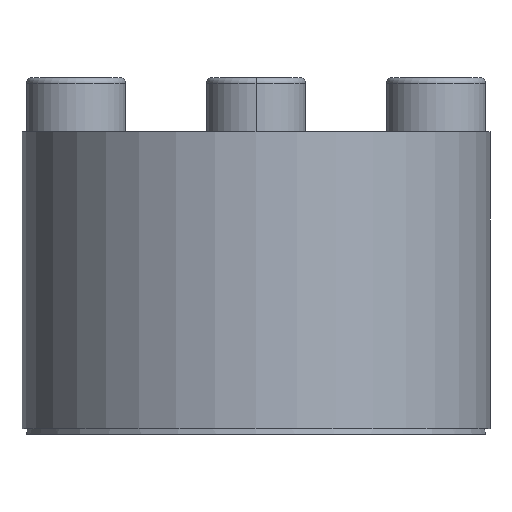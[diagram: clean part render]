
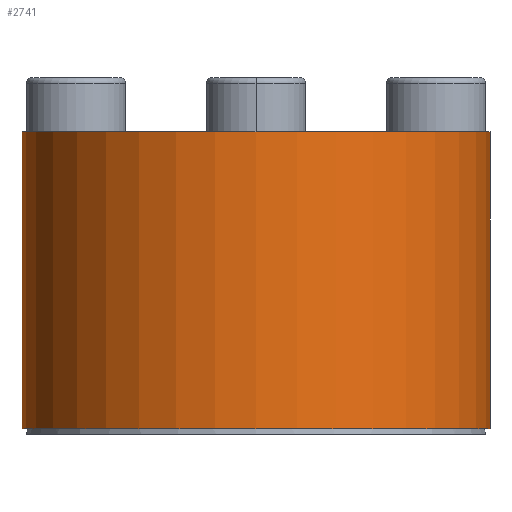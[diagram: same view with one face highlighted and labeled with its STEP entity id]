
A CAD part, front view. The second image highlights one B-rep face of the part: STEP entity #2741.
In plain terms, the highlighted cylindrical face has radius 13 mm (diameter 26 mm), a partial arc.
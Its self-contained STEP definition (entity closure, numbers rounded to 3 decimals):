
#168 = DIRECTION ( 'NONE',  ( 1., 0., 0. ) ) ;
#287 = CARTESIAN_POINT ( 'NONE',  ( 13., 0., 0.311 ) ) ;
#306 = DIRECTION ( 'NONE',  ( 0., 0., 1. ) ) ;
#606 = EDGE_CURVE ( 'NONE', #2185, #4617, #3777, .T. ) ;
#714 = CARTESIAN_POINT ( 'NONE',  ( 13., 0., 16.811 ) ) ;
#1034 = VECTOR ( 'NONE', #5296, 1000. ) ;
#1275 = CARTESIAN_POINT ( 'NONE',  ( 0., 0., 0.311 ) ) ;
#1355 = EDGE_CURVE ( 'NONE', #3926, #2185, #2938, .T. ) ;
#1394 = CARTESIAN_POINT ( 'NONE',  ( -13., 0., 0.311 ) ) ;
#1537 = AXIS2_PLACEMENT_3D ( 'NONE', #1791, #1773, #1729 ) ;
#1567 = CIRCLE ( 'NONE', #6011, 13. ) ;
#1595 = ORIENTED_EDGE ( 'NONE', *, *, #1355, .T. ) ;
#1729 = DIRECTION ( 'NONE',  ( -1., 0., 0. ) ) ;
#1737 = DIRECTION ( 'NONE',  ( 0., 0., -1. ) ) ;
#1773 = DIRECTION ( 'NONE',  ( 0., 0., -1. ) ) ;
#1791 = CARTESIAN_POINT ( 'NONE',  ( 0., 0., 16.811 ) ) ;
#2100 = EDGE_CURVE ( 'NONE', #3926, #6443, #1567, .T. ) ;
#2185 = VERTEX_POINT ( 'NONE', #714 ) ;
#2326 = CARTESIAN_POINT ( 'NONE',  ( 13., 0., 0.311 ) ) ;
#2593 = AXIS2_PLACEMENT_3D ( 'NONE', #1275, #5169, #168 ) ;
#2741 = ADVANCED_FACE ( 'NONE', ( #6434 ), #3189, .T. ) ;
#2938 = LINE ( 'NONE', #287, #4419 ) ;
#3189 = CYLINDRICAL_SURFACE ( 'NONE', #2593, 13. ) ;
#3581 = CARTESIAN_POINT ( 'NONE',  ( -13., 0., 0.311 ) ) ;
#3777 = CIRCLE ( 'NONE', #1537, 13. ) ;
#3926 = VERTEX_POINT ( 'NONE', #2326 ) ;
#3956 = LINE ( 'NONE', #1394, #1034 ) ;
#4239 = ORIENTED_EDGE ( 'NONE', *, *, #606, .T. ) ;
#4419 = VECTOR ( 'NONE', #306, 1000. ) ;
#4617 = VERTEX_POINT ( 'NONE', #5556 ) ;
#4717 = ORIENTED_EDGE ( 'NONE', *, *, #2100, .F. ) ;
#5076 = CARTESIAN_POINT ( 'NONE',  ( 0., 0., 0.311 ) ) ;
#5169 = DIRECTION ( 'NONE',  ( 0., 0., 1. ) ) ;
#5182 = ORIENTED_EDGE ( 'NONE', *, *, #5469, .F. ) ;
#5296 = DIRECTION ( 'NONE',  ( 0., 0., 1. ) ) ;
#5469 = EDGE_CURVE ( 'NONE', #6443, #4617, #3956, .T. ) ;
#5556 = CARTESIAN_POINT ( 'NONE',  ( -13., 0., 16.811 ) ) ;
#5626 = DIRECTION ( 'NONE',  ( -1., 0., 0. ) ) ;
#5732 = EDGE_LOOP ( 'NONE', ( #5182, #4717, #1595, #4239 ) ) ;
#6011 = AXIS2_PLACEMENT_3D ( 'NONE', #5076, #1737, #5626 ) ;
#6434 = FACE_OUTER_BOUND ( 'NONE', #5732, .T. ) ;
#6443 = VERTEX_POINT ( 'NONE', #3581 ) ;
